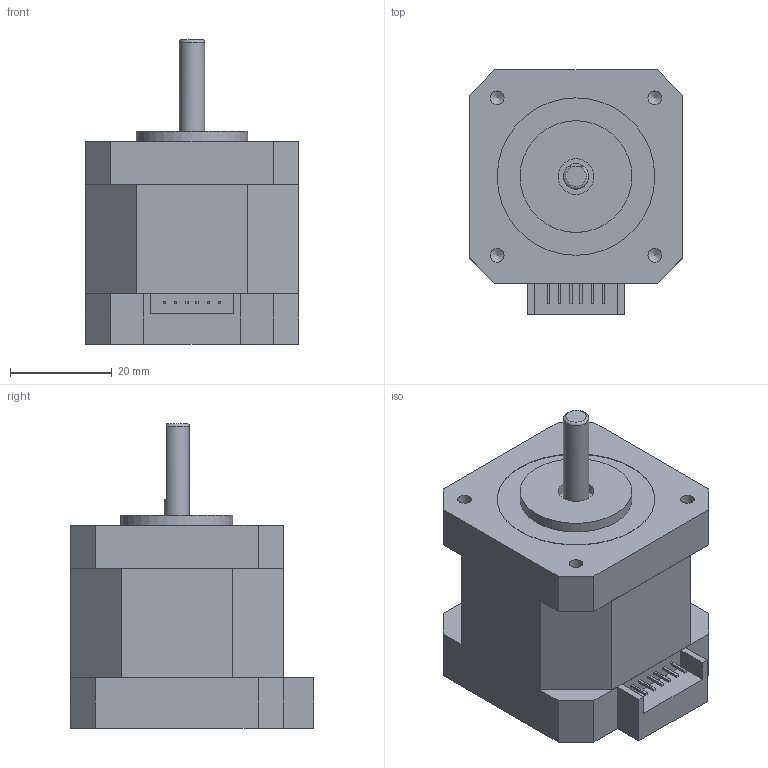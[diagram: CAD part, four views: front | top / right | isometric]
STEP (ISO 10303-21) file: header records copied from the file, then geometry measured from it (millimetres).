
FILE_DESCRIPTION(/* description */ (''),/* implementation_level */ '2;1');
FILE_NAME(/* name */ 'STP-43D2138-02.stp',/* time_stamp */ '2018-08-13T11:53:42+08:00',/* author */ (''),/* organization */ (''),/* preprocessor_version */ 'ST-DEVELOPER v11',/* originating_system */ 'SIEMENS UGS NX 6.0',/* authorisation */ '');
FILE_SCHEMA (('CONFIG_CONTROL_DESIGN'));
Length unit declared in the file: millimetre
Products named in the file (1): STP-43D2119-01
Bounding box: 42 x 48 x 60 mm (x, y, z)
Volume: 66714.1 mm3; surface area: 11020.8 mm2
Topology: 1 solids, 1 shells, 155 faces, 393 edges, 263 vertices
Faces by surface type: plane 131, cylinder 15, cone 8, torus 1
Full cylindrical faces by diameter (mm): 2.7 x4, 4.414 x4, 5 x2, 7 x2, 8.5 x1, 22 x1, 31 x1
Entity records: 4447 total; most frequent: CARTESIAN_POINT 769, ORIENTED_EDGE 706, DIRECTION 699, EDGE_CURVE 353, LINE 315, VECTOR 315, VERTEX_POINT 250, EDGE_LOOP 201
